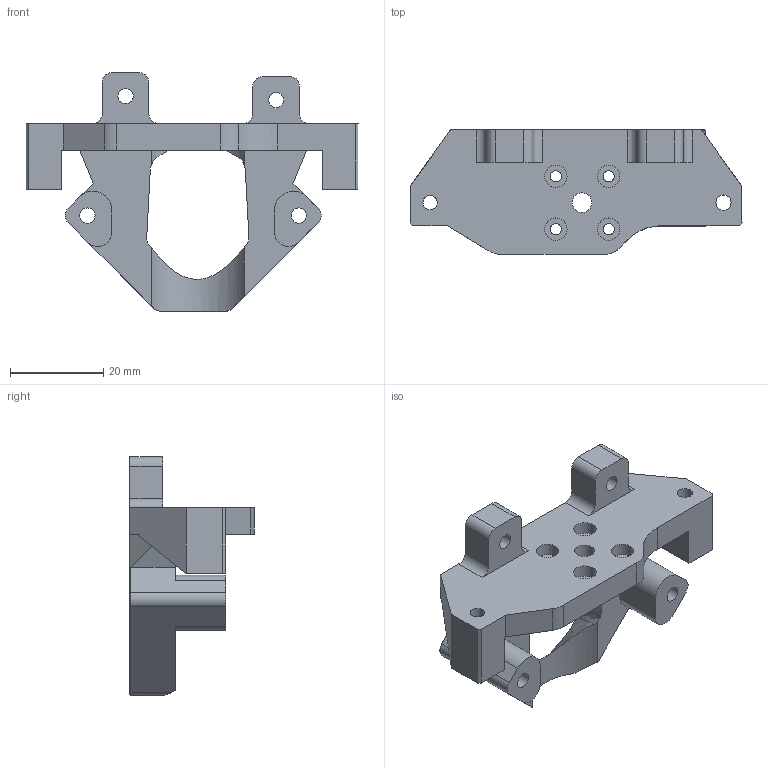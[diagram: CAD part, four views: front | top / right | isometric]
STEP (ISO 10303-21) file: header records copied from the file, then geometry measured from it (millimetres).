
FILE_DESCRIPTION(/* description */ (''),/* implementation_level */ '2;1');
FILE_NAME(/* name */ 'C:/Users/Martin/Documents/icarus-2.1/icarus-2-current-step-files/2-mounts/mount-tbg-lite-rapido-hf-2.1.step',/* time_stamp */ '2022-08-22T19:12:32+02:00',/* author */ (''),/* organization */ (''),/* preprocessor_version */ 'ST-DEVELOPER v19',/* originating_system */ 'Autodesk Translation Framework v11.7.0.108',/* authorisation */ '');
FILE_SCHEMA (('AUTOMOTIVE_DESIGN { 1 0 10303 214 3 1 1 }'));
Length unit declared in the file: millimetre
Products named in the file (1): mount-rapido
Bounding box: 71.07 x 26.66 x 51.04 mm (x, y, z)
Volume: 18301.8 mm3; surface area: 9977.2 mm2
Topology: 1 solids, 1 shells, 119 faces, 326 edges, 212 vertices
Faces by surface type: plane 51, cylinder 38, bspline 22, cone 8
Full cylindrical faces by diameter (mm): 2.4 x4, 3.1 x1, 3.25 x7, 4.2 x1, 4.8 x4
Entity records: 4605 total; most frequent: CARTESIAN_POINT 1600, ORIENTED_EDGE 652, DIRECTION 550, EDGE_CURVE 326, VERTEX_POINT 212, LINE 188, VECTOR 188, AXIS2_PLACEMENT_3D 181
